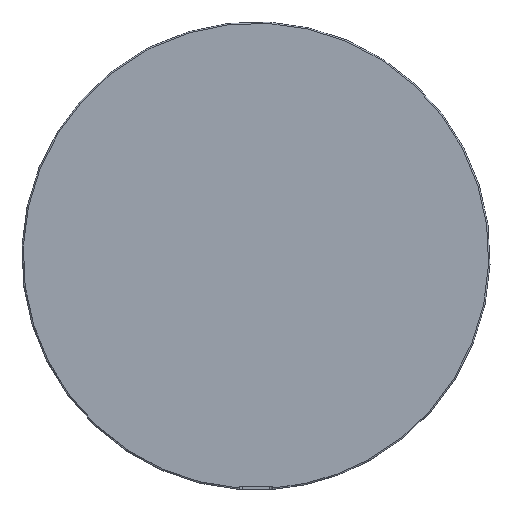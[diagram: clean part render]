
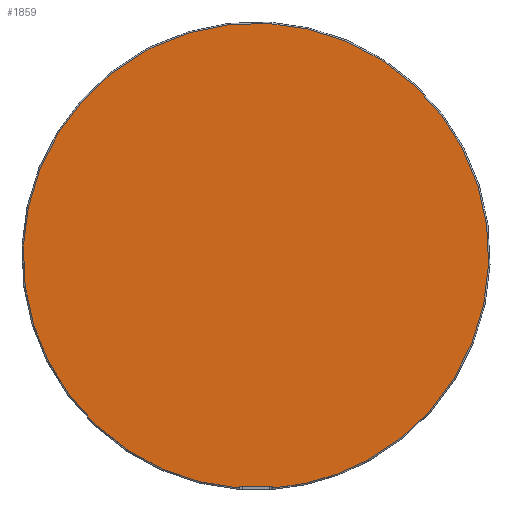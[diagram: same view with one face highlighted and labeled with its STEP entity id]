
A CAD part, left-side view. The second image highlights one B-rep face of the part: STEP entity #1859.
In plain terms, the highlighted planar face has unit normal (-1, 0, 0).
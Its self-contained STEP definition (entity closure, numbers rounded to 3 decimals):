
#1=DIRECTION('',(0.,0.,-1.));
#2=VECTOR('',#1,0.741);
#3=CARTESIAN_POINT('',(59.,-6.,-83.546));
#4=LINE('',#3,#2);
#13=CARTESIAN_POINT('',(59.,-6.,-83.546));
#37=CARTESIAN_POINT('',(59.,6.,-83.546));
#90=CARTESIAN_POINT('',(59.,0.,0.));
#91=DIRECTION('',(1.,0.,0.));
#92=DIRECTION('',(0.,-0.072,-0.997));
#93=AXIS2_PLACEMENT_3D('',#90,#91,#92);
#95=DIRECTION('',(0.,0.,-1.));
#96=VECTOR('',#95,0.741);
#97=CARTESIAN_POINT('',(59.,6.,-83.546));
#98=LINE('',#97,#96);
#99=CARTESIAN_POINT('',(59.,0.,0.));
#100=DIRECTION('',(1.,0.,0.));
#101=DIRECTION('',(0.,0.071,-0.997));
#102=AXIS2_PLACEMENT_3D('',#99,#100,#101);
#104=CARTESIAN_POINT('',(59.,0.,0.));
#105=DIRECTION('',(1.,0.,0.));
#106=DIRECTION('',(0.,0.479,0.878));
#107=AXIS2_PLACEMENT_3D('',#104,#105,#106);
#109=CARTESIAN_POINT('',(59.,0.,0.));
#110=DIRECTION('',(1.,0.,0.));
#111=DIRECTION('',(0.,0.446,0.895));
#112=AXIS2_PLACEMENT_3D('',#109,#110,#111);
#114=CARTESIAN_POINT('',(59.,0.,0.));
#115=DIRECTION('',(1.,0.,0.));
#116=DIRECTION('',(0.,-0.479,-0.878));
#117=AXIS2_PLACEMENT_3D('',#114,#115,#116);
#1455=VERTEX_POINT('',#13);
#1457=CARTESIAN_POINT('',(59.,-6.,
-84.287));
#1458=VERTEX_POINT('',#1457);
#1465=VERTEX_POINT('',#37);
#1479=CARTESIAN_POINT('',(59.,6.,-84.287));
#1480=CARTESIAN_POINT('',(59.,40.512,74.156));
#1481=VERTEX_POINT('',#1479);
#1482=VERTEX_POINT('',#1480);
#1483=CARTESIAN_POINT('',(59.,37.66,75.644));
#1484=VERTEX_POINT('',#1483);
#1485=CARTESIAN_POINT('',(59.,-40.512,-74.156));
#1486=VERTEX_POINT('',#1485);
#1841=CARTESIAN_POINT('',(59.,0.,83.));
#1842=DIRECTION('',(-1.,0.,0.));
#1843=DIRECTION('',(0.,1.,0.));
#1844=AXIS2_PLACEMENT_3D('',#1841,#1842,#1843);
#1845=PLANE('',#1844);
#1846=ORIENTED_EDGE('',*,*,#1756,.F.);
#1847=ORIENTED_EDGE('',*,*,#1781,.T.);
#1849=ORIENTED_EDGE('',*,*,#1848,.T.);
#1850=ORIENTED_EDGE('',*,*,#1831,.T.);
#1852=ORIENTED_EDGE('',*,*,#1851,.T.);
#1854=ORIENTED_EDGE('',*,*,#1853,.T.);
#1856=ORIENTED_EDGE('',*,*,#1855,.T.);
#1857=EDGE_LOOP('',(#1846,#1847,#1849,#1850,#1852,#1854,#1856));
#1858=FACE_OUTER_BOUND('',#1857,.F.);
#1859=ADVANCED_FACE('',(#1858),#1845,.T.);
#94=CIRCLE('',#93,83.761);
#103=CIRCLE('',#102,84.5);
#108=CIRCLE('',#107,84.5);
#113=CIRCLE('',#112,84.5);
#118=CIRCLE('',#117,84.5);
#1756=EDGE_CURVE('',#1455,#1458,#4,.T.);
#1781=EDGE_CURVE('',#1455,#1465,#94,.T.);
#1831=EDGE_CURVE('',#1481,#1482,#103,.T.);
#1848=EDGE_CURVE('',#1465,#1481,#98,.T.);
#1851=EDGE_CURVE('',#1482,#1484,#108,.T.);
#1853=EDGE_CURVE('',#1484,#1486,#113,.T.);
#1855=EDGE_CURVE('',#1486,#1458,#118,.T.);
